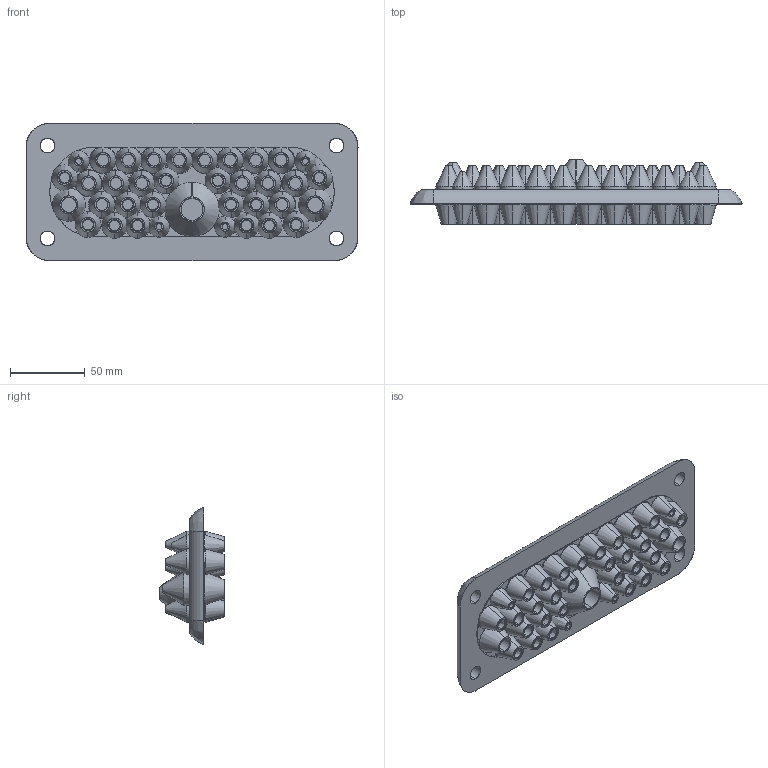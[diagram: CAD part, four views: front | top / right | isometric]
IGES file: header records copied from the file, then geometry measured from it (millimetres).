
Start section: SolidWorks IGES file using analytic representation for surfaces
Global section: file name: C:\Solidworks\omat tuotteet\Space charge models\Multigate\ip66 ip67\IGES\103589.IGS; native system: SolidWorks 2012; preprocessor: SolidWorks 2012; author: joni.lehtonen; date: 121204.122702; units: millimetre
Bounding box: 221.75 x 43 x 91.75 mm (x, y, z)
Surface area: 102000.2 mm2 (no closed solid volume)
Topology: 0 solids, 0 shells, 1234 faces, 15545 edges, 15471 vertices
Faces by surface type: revolution 757, bspline 477
